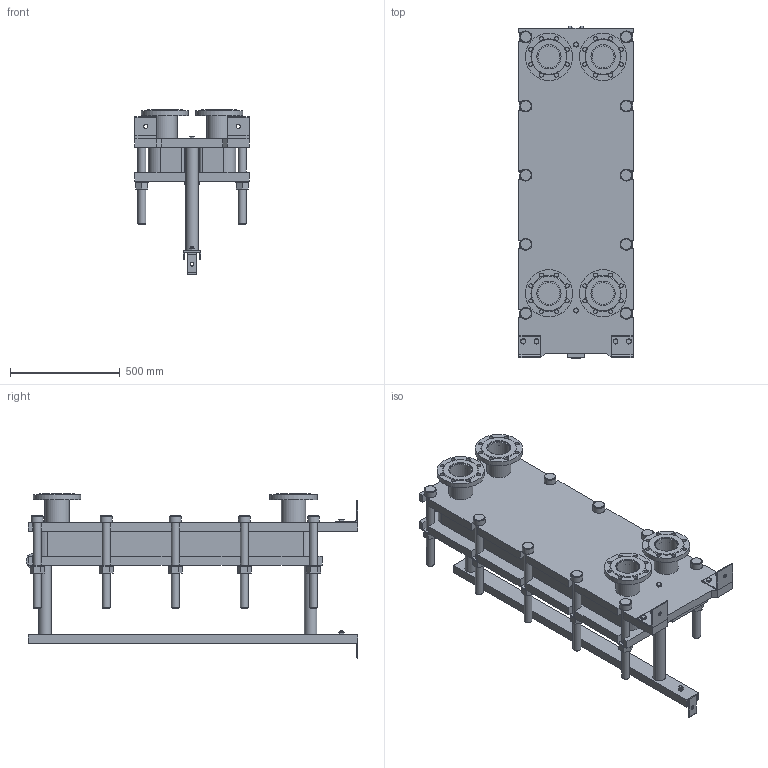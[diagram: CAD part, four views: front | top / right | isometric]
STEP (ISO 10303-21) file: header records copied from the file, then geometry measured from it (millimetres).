
FILE_DESCRIPTION(/* description */ (''),/* implementation_level */ '2;1');
FILE_NAME(/* name */ 'C:\Users\zhuro\Desktop\ENCO\TO\ЭН-04\ЭН-0,5-04-33-1.stp',/* time_stamp */ '2022-06-06T10:46:50+03:00',/* author */ ('zhuro'),/* organization */ (''),/* preprocessor_version */ 'ST-DEVELOPER v18.1',/* originating_system */ 'Autodesk Inventor 2022',/* authorisation */ '');
FILE_SCHEMA (('AUTOMOTIVE_DESIGN { 1 0 10303 214 3 1 1 }'));
Length unit declared in the file: millimetre
Products named in the file (1): ЭН-0,5-04-33-1
Bounding box: 520 x 1510 x 746.5 mm (x, y, z)
Volume: 124496360.4 mm3; surface area: 6881925.6 mm2
Topology: 45 solids, 45 shells, 668 faces, 1611 edges, 1048 vertices
Faces by surface type: plane 457, cylinder 166, cone 39, torus 6
Full cylindrical faces by diameter (mm): 8 x4, 10 x2, 16 x8, 18 x35, 36 x25, 40 x2, 42 x1, 45 x4, 54 x10, 57 x2, 60 x10, 68 x2, 100 x4, 110 x8, 215 x4
Entity records: 23607 total; most frequent: CARTESIAN_POINT 7348, DIRECTION 3371, ORIENTED_EDGE 3142, EDGE_CURVE 1571, AXIS2_PLACEMENT_3D 1199, VERTEX_POINT 1044, LINE 973, VECTOR 973
